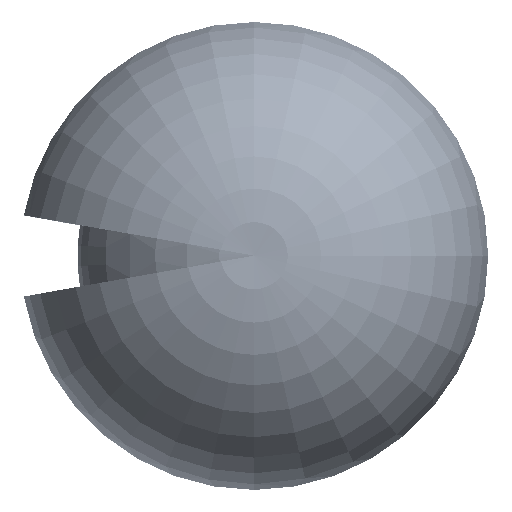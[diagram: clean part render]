
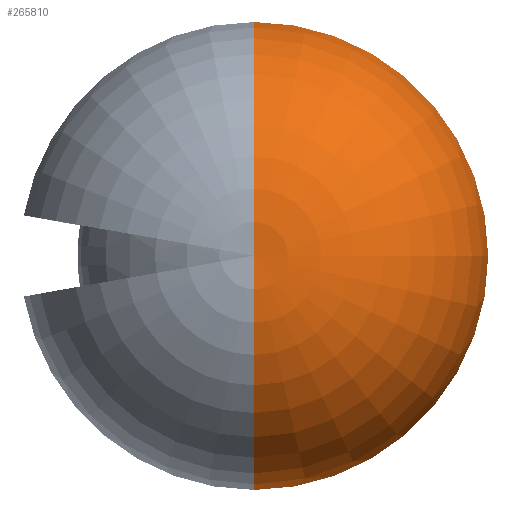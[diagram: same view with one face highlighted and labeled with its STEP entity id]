
A CAD part, top view. The second image highlights one B-rep face of the part: STEP entity #265810.
In plain terms, the highlighted toroidal (fillet/blend) face has major radius 320 mm and minor radius 2784.9 mm.
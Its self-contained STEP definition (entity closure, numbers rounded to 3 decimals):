
#15170 = DIRECTION ( 'NONE',  ( 0., 1., 0. ) ) ;
#33019 = AXIS2_PLACEMENT_3D ( 'NONE', #646638, #636796, #35034 ) ;
#35034 = DIRECTION ( 'NONE',  ( 0., 1., 0. ) ) ;
#38031 = AXIS2_PLACEMENT_3D ( 'NONE', #224326, #124766, #15170 ) ;
#116588 = ORIENTED_EDGE ( 'NONE', *, *, #433858, .T. ) ;
#124766 = DIRECTION ( 'NONE',  ( 0., 0., -1. ) ) ;
#124873 = AXIS2_PLACEMENT_3D ( 'NONE', #556863, #443779, #406948 ) ;
#128313 = CIRCLE ( 'NONE', #33019, 2784.903 ) ;
#149090 = EDGE_LOOP ( 'NONE', ( #162704, #116588, #284585 ) ) ;
#162704 = ORIENTED_EDGE ( 'NONE', *, *, #329791, .F. ) ;
#166967 = CIRCLE ( 'NONE', #124873, 2784.903 ) ;
#170723 = CARTESIAN_POINT ( 'NONE',  ( 0., 3094.306, 1022.72 ) ) ;
#215599 = CARTESIAN_POINT ( 'NONE',  ( 0., 0., 1022.72 ) ) ;
#224326 = CARTESIAN_POINT ( 'NONE',  ( 0., 0., 780. ) ) ;
#265810 = ADVANCED_FACE ( 'NONE', ( #380482 ), #356172, .T. ) ;
#284585 = ORIENTED_EDGE ( 'NONE', *, *, #424293, .F. ) ;
#285912 = AXIS2_PLACEMENT_3D ( 'NONE', #215599, #375019, #618093 ) ;
#329791 = EDGE_CURVE ( 'NONE', #523721, #352519, #166967, .T. ) ;
#352519 = VERTEX_POINT ( 'NONE', #170723 ) ;
#356172 = TOROIDAL_SURFACE ( 'NONE', #38031, 320., 2784.903 ) ;
#375019 = DIRECTION ( 'NONE',  ( 0., 0., -1. ) ) ;
#380482 = FACE_OUTER_BOUND ( 'NONE', #149090, .T. ) ;
#381263 = CIRCLE ( 'NONE', #285912, 3094.306 ) ;
#406948 = DIRECTION ( 'NONE',  ( 0., 0., 1. ) ) ;
#424293 = EDGE_CURVE ( 'NONE', #352519, #605981, #381263, .T. ) ;
#433858 = EDGE_CURVE ( 'NONE', #523721, #605981, #128313, .T. ) ;
#443779 = DIRECTION ( 'NONE',  ( -1., 0., 0. ) ) ;
#517043 = CARTESIAN_POINT ( 'NONE',  ( 0., -3094.306, 1022.72 ) ) ;
#523721 = VERTEX_POINT ( 'NONE', #623436 ) ;
#556863 = CARTESIAN_POINT ( 'NONE',  ( 0., 320., 780. ) ) ;
#605981 = VERTEX_POINT ( 'NONE', #517043 ) ;
#618093 = DIRECTION ( 'NONE',  ( 0., 1., 0. ) ) ;
#623436 = CARTESIAN_POINT ( 'NONE',  ( 0., 0., 3546.457 ) ) ;
#636796 = DIRECTION ( 'NONE',  ( 1., 0., 0. ) ) ;
#646638 = CARTESIAN_POINT ( 'NONE',  ( 0., -320., 780. ) ) ;
